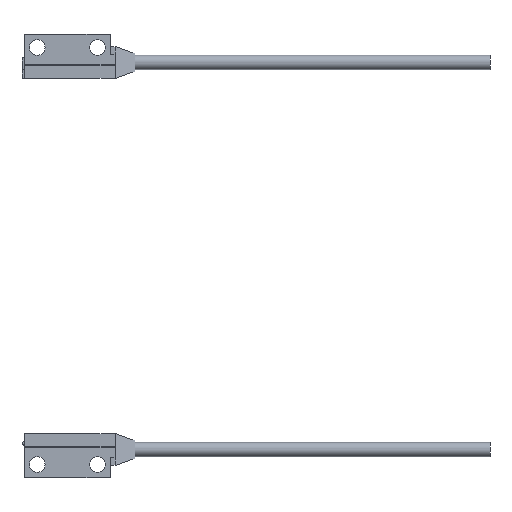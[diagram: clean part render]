
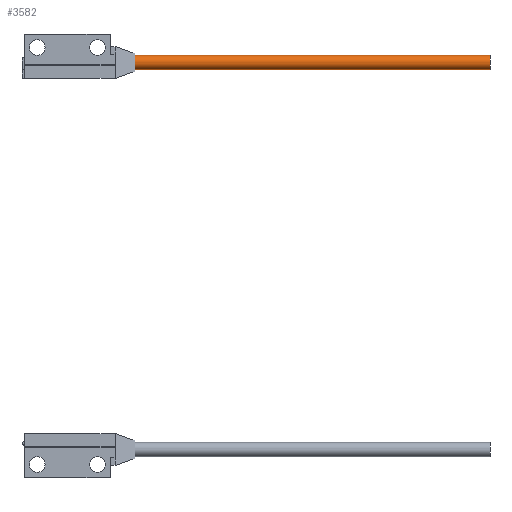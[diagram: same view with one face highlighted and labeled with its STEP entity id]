
A CAD part, left-side view. The second image highlights one B-rep face of the part: STEP entity #3582.
In plain terms, the highlighted cylindrical face has radius 1 mm (diameter 2 mm), a partial arc.
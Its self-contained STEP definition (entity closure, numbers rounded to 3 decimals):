
#2425 = CARTESIAN_POINT ( 'NONE',  ( 0., -59.5, -1.25 ) ) ;
#2451 = DIRECTION ( 'NONE',  ( 0., 1., 0. ) ) ;
#2452 = FACE_OUTER_BOUND ( 'NONE', #3592, .T. ) ;
#2453 = CARTESIAN_POINT ( 'NONE',  ( 0., -59.5, -1.25 ) ) ;
#2457 = CARTESIAN_POINT ( 'NONE',  ( 0., -9.5, -3.25 ) ) ;
#2459 = CARTESIAN_POINT ( 'NONE',  ( 0., -59.5, -3.25 ) ) ;
#2484 = DIRECTION ( 'NONE',  ( 0., -1., 0. ) ) ;
#2485 = AXIS2_PLACEMENT_3D ( 'NONE', #2495, #2484, #2540 ) ;
#2486 = DIRECTION ( 'NONE',  ( 0., 1., 0. ) ) ;
#2487 = VECTOR ( 'NONE', #2486, 1000. ) ;
#2488 = CIRCLE ( 'NONE', #2485, 1. ) ;
#2489 = CARTESIAN_POINT ( 'NONE',  ( 0., -59.5, -3.25 ) ) ;
#2490 = LINE ( 'NONE', #2489, #2487 ) ;
#2495 = CARTESIAN_POINT ( 'NONE',  ( 0., -9.5, -2.25 ) ) ;
#2496 = CARTESIAN_POINT ( 'NONE',  ( 0., -9.5, -1.25 ) ) ;
#2497 = VECTOR ( 'NONE', #2502, 1000. ) ;
#2498 = CIRCLE ( 'NONE', #2541, 1. ) ;
#2499 = LINE ( 'NONE', #2453, #2497 ) ;
#2502 = DIRECTION ( 'NONE',  ( 0., 1., 0. ) ) ;
#2503 = DIRECTION ( 'NONE',  ( 0., 0., 1. ) ) ;
#2504 = AXIS2_PLACEMENT_3D ( 'NONE', #2508, #2451, #2503 ) ;
#2505 = CYLINDRICAL_SURFACE ( 'NONE', #2504, 1. ) ;
#2508 = CARTESIAN_POINT ( 'NONE',  ( 0., -59.5, -2.25 ) ) ;
#2533 = DIRECTION ( 'NONE',  ( 0., 0., -1. ) ) ;
#2534 = DIRECTION ( 'NONE',  ( 0., -1., 0. ) ) ;
#2535 = CARTESIAN_POINT ( 'NONE',  ( 0., -59.5, -2.25 ) ) ;
#2540 = DIRECTION ( 'NONE',  ( 0., 0., -1. ) ) ;
#2541 = AXIS2_PLACEMENT_3D ( 'NONE', #2535, #2534, #2533 ) ;
#3572 = ORIENTED_EDGE ( 'NONE', *, *, #3594, .T. ) ;
#3573 = ORIENTED_EDGE ( 'NONE', *, *, #3585, .F. ) ;
#3574 = VERTEX_POINT ( 'NONE', #2425 ) ;
#3577 = VERTEX_POINT ( 'NONE', #2459 ) ;
#3578 = VERTEX_POINT ( 'NONE', #2457 ) ;
#3579 = ORIENTED_EDGE ( 'NONE', *, *, #3590, .T. ) ;
#3582 = ADVANCED_FACE ( 'NONE', ( #2452 ), #2505, .T. ) ;
#3585 = EDGE_CURVE ( 'NONE', #3574, #3587, #2499, .T. ) ;
#3587 = VERTEX_POINT ( 'NONE', #2496 ) ;
#3590 = EDGE_CURVE ( 'NONE', #3577, #3578, #2490, .T. ) ;
#3592 = EDGE_LOOP ( 'NONE', ( #3593, #3579, #3572, #3573 ) ) ;
#3593 = ORIENTED_EDGE ( 'NONE', *, *, #3595, .F. ) ;
#3594 = EDGE_CURVE ( 'NONE', #3578, #3587, #2488, .T. ) ;
#3595 = EDGE_CURVE ( 'NONE', #3577, #3574, #2498, .T. ) ;
